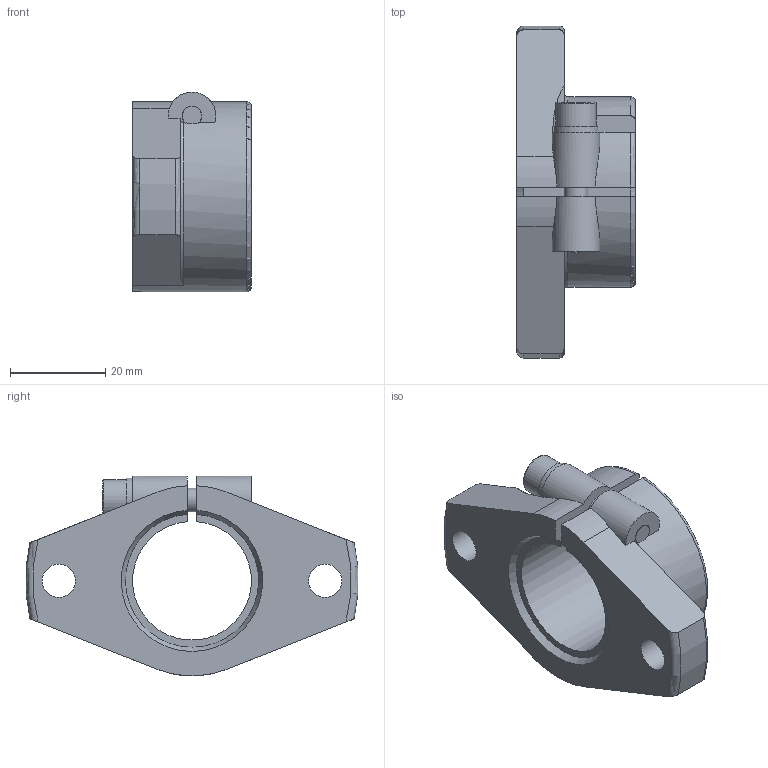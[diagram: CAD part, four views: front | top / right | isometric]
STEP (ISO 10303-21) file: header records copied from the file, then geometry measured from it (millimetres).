
FILE_DESCRIPTION((''),'2;1');
FILE_NAME('D:\製品 (図面)\カタログ用3D\シャフトブロック関連\STEP形式\SF\SF25.stp','2010-06-01T16:25:35',('Tsuchiya'),(''),'Autodesk Inventor 10','Autodesk Inventor 10','');
FILE_SCHEMA(('AUTOMOTIVE_DESIGN { 1 0 10303 214 1 1 1 1 }'));
Length unit declared in the file: millimetre
Products named in the file (1): SF25
Bounding box: 25 x 69.79 x 42 mm (x, y, z)
Volume: 25930.1 mm3; surface area: 9801.3 mm2
Topology: 1 solids, 1 shells, 56 faces, 152 edges, 101 vertices
Faces by surface type: plane 25, cylinder 15, torus 7, bspline 5, cone 4
Full cylindrical faces by diameter (mm): 5 x1, 7 x2, 8.5 x1, 9.2 x1
Entity records: 2101 total; most frequent: CARTESIAN_POINT 783, ORIENTED_EDGE 270, DIRECTION 256, EDGE_CURVE 135, AXIS2_PLACEMENT_3D 102, VERTEX_POINT 94, EDGE_LOOP 75, FACE_OUTER_BOUND 56
